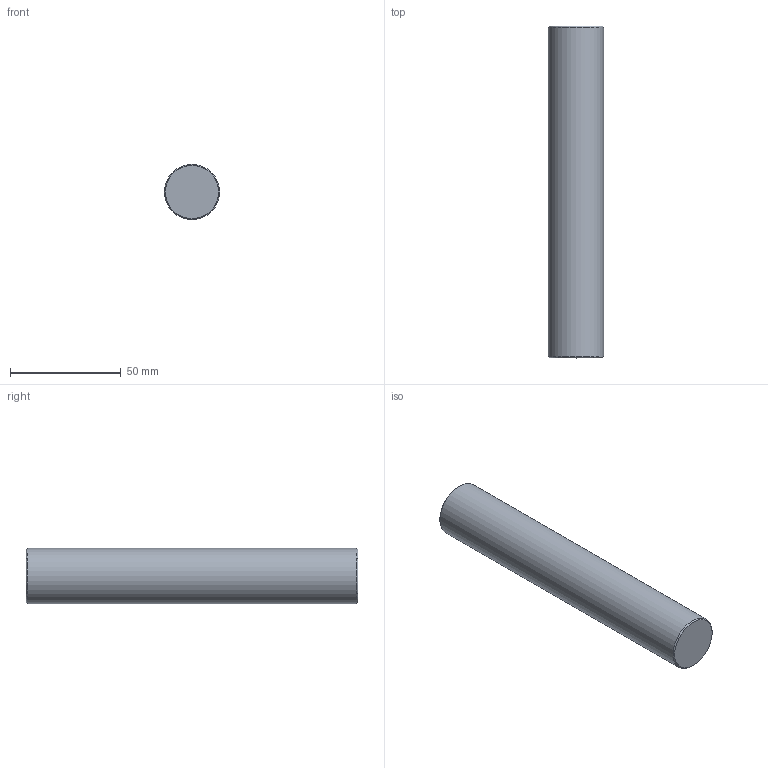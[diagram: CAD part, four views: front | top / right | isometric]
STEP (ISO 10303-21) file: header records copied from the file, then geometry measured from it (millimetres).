
FILE_DESCRIPTION(/* description */ (''),/* implementation_level */ '2;1');
FILE_NAME(/* name */ 'BM00-25D-150L.step',/* time_stamp */ '2023-10-24T13:28:57+09:00',/* author */ (''),/* organization */ (''),/* preprocessor_version */ 'ST-DEVELOPER v20',/* originating_system */ 'Autodesk Translation Framework v12.14.0.127',/* authorisation */ '');
FILE_SCHEMA (('AUTOMOTIVE_DESIGN { 1 0 10303 214 3 1 1 }'));
Length unit declared in the file: millimetre
Products named in the file (1): BM00-25D-150L
Bounding box: 25 x 150 x 25 mm (x, y, z)
Volume: 73611.7 mm3; surface area: 12716.1 mm2
Topology: 1 solids, 1 shells, 5 faces, 7 edges, 4 vertices
Faces by surface type: cone 2, plane 2, cylinder 1
Full cylindrical faces by diameter (mm): 25 x1
Entity records: 149 total; most frequent: DIRECTION 23, CARTESIAN_POINT 17, ORIENTED_EDGE 14, AXIS2_PLACEMENT_3D 10, EDGE_CURVE 7, FACE_OUTER_BOUND 5, EDGE_LOOP 5, ADVANCED_FACE 5
